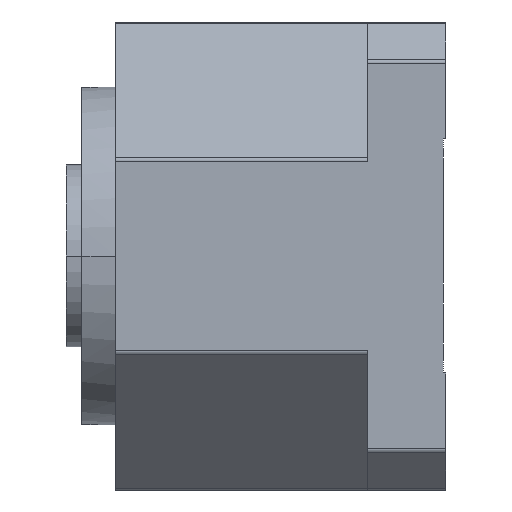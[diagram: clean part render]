
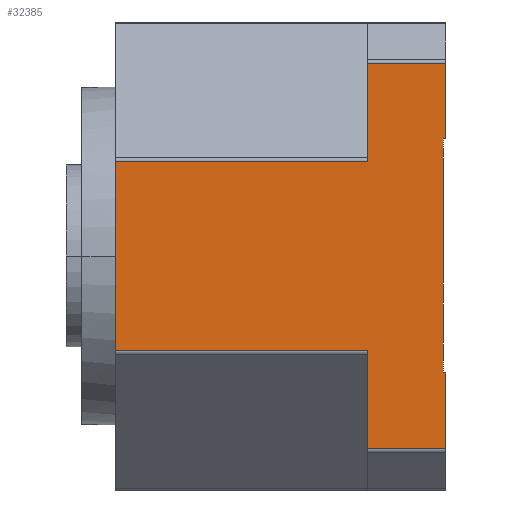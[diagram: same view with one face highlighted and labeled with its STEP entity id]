
A CAD part, left-side view. The second image highlights one B-rep face of the part: STEP entity #32385.
In plain terms, the highlighted planar face has unit normal (-1, 0, 0).
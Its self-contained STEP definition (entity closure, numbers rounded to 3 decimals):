
#27881=DIRECTION('',(0.,0.,1.));
#27882=VECTOR('',#27881,29.172);
#27883=CARTESIAN_POINT('',(-90.,-92.,-74.172));
#27884=LINE('',#27883,#27882);
#27962=DIRECTION('',(0.,0.,1.));
#27963=VECTOR('',#27962,29.172);
#27964=CARTESIAN_POINT('',(-90.,-92.,45.));
#27965=LINE('',#27964,#27963);
#28089=DIRECTION('',(0.,0.,-1.));
#28090=VECTOR('',#28089,37.721);
#28091=CARTESIAN_POINT('',(-90.,-62.,-36.451));
#28092=LINE('',#28091,#28090);
#28134=DIRECTION('',(0.,0.,-1.));
#28135=VECTOR('',#28134,37.721);
#28136=CARTESIAN_POINT('',(-90.,-62.,74.172));
#28137=LINE('',#28136,#28135);
#28315=DIRECTION('',(0.,0.,1.));
#28316=VECTOR('',#28315,72.902);
#28317=CARTESIAN_POINT('',(-90.,35.,-36.451));
#28318=LINE('',#28317,#28316);
#28850=DIRECTION('',(0.,-1.,0.));
#28851=VECTOR('',#28850,30.);
#28852=CARTESIAN_POINT('',(-90.,-62.,-74.172));
#28853=LINE('',#28852,#28851);
#28854=DIRECTION('',(0.,-1.,0.));
#28855=VECTOR('',#28854,97.);
#28856=CARTESIAN_POINT('',(-90.,35.,-36.451));
#28857=LINE('',#28856,#28855);
#28858=DIRECTION('',(0.,1.,0.));
#28859=VECTOR('',#28858,97.);
#28860=CARTESIAN_POINT('',(-90.,-62.,36.451));
#28861=LINE('',#28860,#28859);
#28862=DIRECTION('',(0.,1.,0.));
#28863=VECTOR('',#28862,30.);
#28864=CARTESIAN_POINT('',(-90.,-92.,74.172));
#28865=LINE('',#28864,#28863);
#28866=DIRECTION('',(0.,1.,0.));
#28867=VECTOR('',#28866,1.);
#28868=CARTESIAN_POINT('',(-90.,-92.,45.));
#28869=LINE('',#28868,#28867);
#28870=DIRECTION('',(0.,0.,1.));
#28871=VECTOR('',#28870,90.);
#28872=CARTESIAN_POINT('',(-90.,-91.,-45.));
#28873=LINE('',#28872,#28871);
#28874=DIRECTION('',(0.,1.,0.));
#28875=VECTOR('',#28874,1.);
#28876=CARTESIAN_POINT('',(-90.,-92.,-45.));
#28877=LINE('',#28876,#28875);
#30556=CARTESIAN_POINT('',(-90.,-92.,45.));
#30557=VERTEX_POINT('',#30556);
#30558=CARTESIAN_POINT('',(-90.,-92.,-45.));
#30560=VERTEX_POINT('',#30558);
#30564=CARTESIAN_POINT('',(-90.,-91.,-45.));
#30565=CARTESIAN_POINT('',(-90.,-91.,45.));
#30566=VERTEX_POINT('',#30564);
#30567=VERTEX_POINT('',#30565);
#30644=CARTESIAN_POINT('',(-90.,-92.,-74.172));
#30646=VERTEX_POINT('',#30644);
#30650=CARTESIAN_POINT('',(-90.,-62.,-74.172));
#30651=VERTEX_POINT('',#30650);
#30676=CARTESIAN_POINT('',(-90.,-62.,74.172));
#30678=VERTEX_POINT('',#30676);
#30682=CARTESIAN_POINT('',(-90.,-92.,74.172));
#30683=VERTEX_POINT('',#30682);
#30728=CARTESIAN_POINT('',(-90.,35.,-36.451));
#30729=VERTEX_POINT('',#30728);
#30730=CARTESIAN_POINT('',(-90.,-62.,-36.451));
#30731=VERTEX_POINT('',#30730);
#30732=CARTESIAN_POINT('',(-90.,35.,36.451));
#30734=VERTEX_POINT('',#30732);
#30738=CARTESIAN_POINT('',(-90.,-62.,36.451));
#30739=VERTEX_POINT('',#30738);
#32360=CARTESIAN_POINT('',(-90.,-92.,-90.));
#32361=DIRECTION('',(-1.,0.,0.));
#32362=DIRECTION('',(0.,0.,1.));
#32363=AXIS2_PLACEMENT_3D('',#32360,#32361,#32362);
#32364=PLANE('',#32363);
#32366=ORIENTED_EDGE('',*,*,#32365,.F.);
#32367=ORIENTED_EDGE('',*,*,#31477,.F.);
#32369=ORIENTED_EDGE('',*,*,#32368,.F.);
#32370=ORIENTED_EDGE('',*,*,#31829,.T.);
#32372=ORIENTED_EDGE('',*,*,#32371,.F.);
#32373=ORIENTED_EDGE('',*,*,#31529,.F.);
#32375=ORIENTED_EDGE('',*,*,#32374,.F.);
#32376=ORIENTED_EDGE('',*,*,#31383,.F.);
#32378=ORIENTED_EDGE('',*,*,#32377,.T.);
#32379=ORIENTED_EDGE('',*,*,#32329,.F.);
#32381=ORIENTED_EDGE('',*,*,#32380,.F.);
#32382=ORIENTED_EDGE('',*,*,#31317,.F.);
#32383=EDGE_LOOP('',(#32366,#32367,#32369,#32370,#32372,#32373,#32375,#32376,
#32378,#32379,#32381,#32382));
#32384=FACE_OUTER_BOUND('',#32383,.F.);
#32385=ADVANCED_FACE('',(#32384),#32364,.T.);
#31317=EDGE_CURVE('',#30646,#30560,#27884,.T.);
#31383=EDGE_CURVE('',#30557,#30683,#27965,.T.);
#31477=EDGE_CURVE('',#30731,#30651,#28092,.T.);
#31529=EDGE_CURVE('',#30678,#30739,#28137,.T.);
#31829=EDGE_CURVE('',#30729,#30734,#28318,.T.);
#32329=EDGE_CURVE('',#30566,#30567,#28873,.T.);
#32365=EDGE_CURVE('',#30651,#30646,#28853,.T.);
#32368=EDGE_CURVE('',#30729,#30731,#28857,.T.);
#32371=EDGE_CURVE('',#30739,#30734,#28861,.T.);
#32374=EDGE_CURVE('',#30683,#30678,#28865,.T.);
#32377=EDGE_CURVE('',#30557,#30567,#28869,.T.);
#32380=EDGE_CURVE('',#30560,#30566,#28877,.T.);
